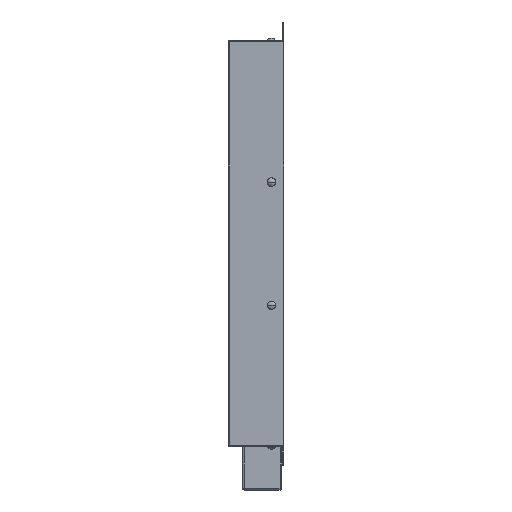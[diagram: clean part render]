
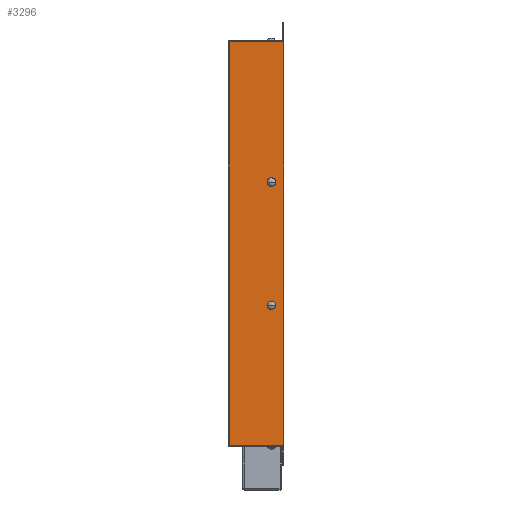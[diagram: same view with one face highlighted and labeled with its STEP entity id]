
A CAD part, left-side view. The second image highlights one B-rep face of the part: STEP entity #3296.
In plain terms, the highlighted planar face has unit normal (-1, 0, 0).
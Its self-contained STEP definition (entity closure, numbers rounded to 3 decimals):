
#20 = DIRECTION ( 'NONE',  ( 0., 0., 1. ) ) ;
#77 = LINE ( 'NONE', #2867, #3730 ) ;
#572 = AXIS2_PLACEMENT_3D ( 'NONE', #5776, #5266, #1235 ) ;
#610 = DIRECTION ( 'NONE',  ( 0., 0., -1. ) ) ;
#848 = FACE_OUTER_BOUND ( 'NONE', #5143, .T. ) ;
#1077 = EDGE_LOOP ( 'NONE', ( #4718, #3942 ) ) ;
#1135 = LINE ( 'NONE', #2096, #1650 ) ;
#1197 = EDGE_CURVE ( 'NONE', #4066, #3821, #5677, .T. ) ;
#1235 = DIRECTION ( 'NONE',  ( 0., 0., -1. ) ) ;
#1307 = CIRCLE ( 'NONE', #572, 3.45 ) ;
#1336 = FACE_BOUND ( 'NONE', #3266, .T. ) ;
#1395 = FACE_BOUND ( 'NONE', #1077, .T. ) ;
#1418 = CARTESIAN_POINT ( 'NONE',  ( -165., 44., -164. ) ) ;
#1566 = AXIS2_PLACEMENT_3D ( 'NONE', #2809, #1984, #5478 ) ;
#1577 = AXIS2_PLACEMENT_3D ( 'NONE', #3103, #4433, #20 ) ;
#1584 = VERTEX_POINT ( 'NONE', #5095 ) ;
#1610 = CARTESIAN_POINT ( 'NONE',  ( -165., 44., 164. ) ) ;
#1650 = VECTOR ( 'NONE', #3010, 1000. ) ;
#1656 = DIRECTION ( 'NONE',  ( 0., 0., -1. ) ) ;
#1984 = DIRECTION ( 'NONE',  ( -1., 0., 0. ) ) ;
#2055 = VERTEX_POINT ( 'NONE', #4952 ) ;
#2061 = LINE ( 'NONE', #4801, #3263 ) ;
#2096 = CARTESIAN_POINT ( 'NONE',  ( -165., 44., -165. ) ) ;
#2116 = VERTEX_POINT ( 'NONE', #1418 ) ;
#2172 = EDGE_CURVE ( 'NONE', #4066, #3646, #77, .T. ) ;
#2239 = EDGE_CURVE ( 'NONE', #2055, #4497, #4388, .T. ) ;
#2296 = ORIENTED_EDGE ( 'NONE', *, *, #2239, .F. ) ;
#2309 = ORIENTED_EDGE ( 'NONE', *, *, #1197, .F. ) ;
#2322 = CIRCLE ( 'NONE', #5608, 3.45 ) ;
#2414 = AXIS2_PLACEMENT_3D ( 'NONE', #5644, #4687, #5560 ) ;
#2457 = CARTESIAN_POINT ( 'NONE',  ( -165., 0., -165. ) ) ;
#2516 = ORIENTED_EDGE ( 'NONE', *, *, #4435, .T. ) ;
#2521 = VERTEX_POINT ( 'NONE', #3598 ) ;
#2560 = DIRECTION ( 'NONE',  ( 0., -1., 0. ) ) ;
#2633 = PLANE ( 'NONE',  #1577 ) ;
#2696 = CARTESIAN_POINT ( 'NONE',  ( -165., 10., -53.45 ) ) ;
#2809 = CARTESIAN_POINT ( 'NONE',  ( -165., 10., -50. ) ) ;
#2837 = DIRECTION ( 'NONE',  ( 0., 1., 0. ) ) ;
#2867 = CARTESIAN_POINT ( 'NONE',  ( -165., 511.69, 164. ) ) ;
#3010 = DIRECTION ( 'NONE',  ( 0., 0., -1. ) ) ;
#3103 = CARTESIAN_POINT ( 'NONE',  ( -165., 511.69, -165. ) ) ;
#3263 = VECTOR ( 'NONE', #2560, 1000. ) ;
#3266 = EDGE_LOOP ( 'NONE', ( #3619, #2296 ) ) ;
#3296 = ADVANCED_FACE ( 'NONE', ( #1395, #1336, #848 ), #2633, .T. ) ;
#3404 = EDGE_CURVE ( 'NONE', #2521, #1584, #2322, .T. ) ;
#3598 = CARTESIAN_POINT ( 'NONE',  ( -165., 10., 46.55 ) ) ;
#3611 = VECTOR ( 'NONE', #1656, 1000. ) ;
#3619 = ORIENTED_EDGE ( 'NONE', *, *, #5513, .F. ) ;
#3646 = VERTEX_POINT ( 'NONE', #1610 ) ;
#3730 = VECTOR ( 'NONE', #2837, 1000. ) ;
#3821 = VERTEX_POINT ( 'NONE', #5502 ) ;
#3922 = EDGE_CURVE ( 'NONE', #3646, #2116, #1135, .T. ) ;
#3942 = ORIENTED_EDGE ( 'NONE', *, *, #5307, .F. ) ;
#4066 = VERTEX_POINT ( 'NONE', #5186 ) ;
#4388 = CIRCLE ( 'NONE', #1566, 3.45 ) ;
#4433 = DIRECTION ( 'NONE',  ( -1., 0., 0. ) ) ;
#4435 = EDGE_CURVE ( 'NONE', #2116, #3821, #2061, .T. ) ;
#4497 = VERTEX_POINT ( 'NONE', #2696 ) ;
#4640 = DIRECTION ( 'NONE',  ( -1., 0., 0. ) ) ;
#4687 = DIRECTION ( 'NONE',  ( -1., 0., 0. ) ) ;
#4718 = ORIENTED_EDGE ( 'NONE', *, *, #3404, .F. ) ;
#4801 = CARTESIAN_POINT ( 'NONE',  ( -165., 511.69, -164. ) ) ;
#4952 = CARTESIAN_POINT ( 'NONE',  ( -165., 10., -46.55 ) ) ;
#4984 = ORIENTED_EDGE ( 'NONE', *, *, #2172, .T. ) ;
#5095 = CARTESIAN_POINT ( 'NONE',  ( -165., 10., 53.45 ) ) ;
#5111 = ORIENTED_EDGE ( 'NONE', *, *, #3922, .T. ) ;
#5143 = EDGE_LOOP ( 'NONE', ( #2309, #4984, #5111, #2516 ) ) ;
#5186 = CARTESIAN_POINT ( 'NONE',  ( -165., 0., 164. ) ) ;
#5266 = DIRECTION ( 'NONE',  ( -1., 0., 0. ) ) ;
#5307 = EDGE_CURVE ( 'NONE', #1584, #2521, #5691, .T. ) ;
#5478 = DIRECTION ( 'NONE',  ( 0., 0., -1. ) ) ;
#5502 = CARTESIAN_POINT ( 'NONE',  ( -165., 0., -164. ) ) ;
#5513 = EDGE_CURVE ( 'NONE', #4497, #2055, #1307, .T. ) ;
#5543 = CARTESIAN_POINT ( 'NONE',  ( -165., 10., 50. ) ) ;
#5560 = DIRECTION ( 'NONE',  ( 0., 0., -1. ) ) ;
#5608 = AXIS2_PLACEMENT_3D ( 'NONE', #5543, #4640, #610 ) ;
#5644 = CARTESIAN_POINT ( 'NONE',  ( -165., 10., 50. ) ) ;
#5677 = LINE ( 'NONE', #2457, #3611 ) ;
#5691 = CIRCLE ( 'NONE', #2414, 3.45 ) ;
#5776 = CARTESIAN_POINT ( 'NONE',  ( -165., 10., -50. ) ) ;
